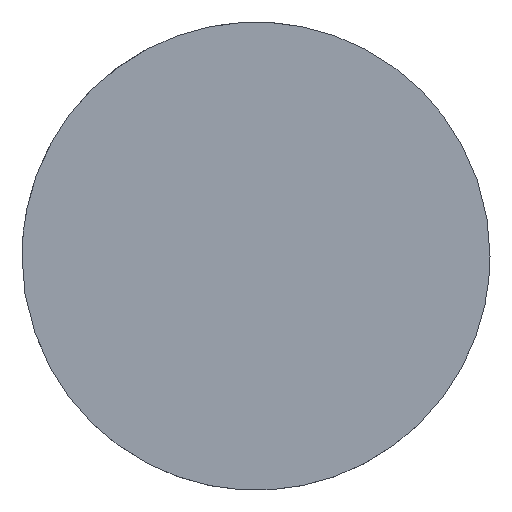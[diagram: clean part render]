
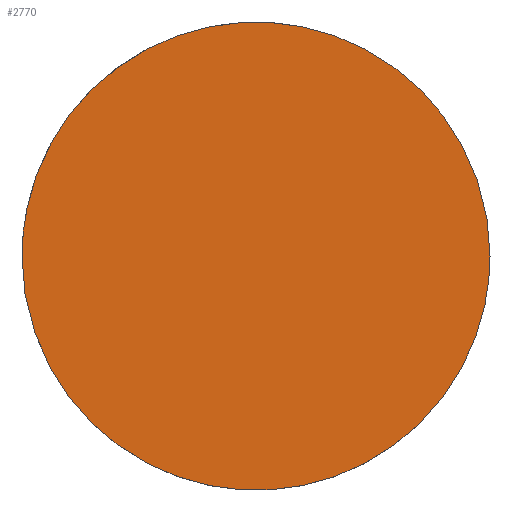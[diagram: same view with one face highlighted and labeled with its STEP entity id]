
A CAD part, top view. The second image highlights one B-rep face of the part: STEP entity #2770.
In plain terms, the highlighted planar face has unit normal (0, 0, 1).
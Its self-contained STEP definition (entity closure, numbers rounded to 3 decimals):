
#190 = CARTESIAN_POINT ('', (-50., 0., -76.181));
#200 = VERTEX_POINT ('', #190);
#260 = CARTESIAN_POINT ('', (50., 0., -76.181));
#270 = VERTEX_POINT ('', #260);
#280 = CARTESIAN_POINT ('', (50., 0., -76.181));
#290 = CARTESIAN_POINT ('', (50., 50., -76.181));
#300 = CARTESIAN_POINT ('', (0., 50., -76.181));
#310 = CARTESIAN_POINT ('', (-50., 50., -76.181));
#320 = CARTESIAN_POINT ('', (-50., 0., -76.181));
#330 = (
   BOUNDED_CURVE ()
   B_SPLINE_CURVE (2, (#280, #290, #300, #310, #320), .UNSPECIFIED., .F., .U.)
   B_SPLINE_CURVE_WITH_KNOTS ((3, 2, 3), (0., 1.571, 3.142), .UNSPECIFIED.)
   CURVE ()
   GEOMETRIC_REPRESENTATION_ITEM ()
   RATIONAL_B_SPLINE_CURVE ((1., 0.707, 1., 0.707, 1.))
   REPRESENTATION_ITEM ('')
);
#340 = EDGE_CURVE ('', #270, #200, #330, .T.);
#580 = CARTESIAN_POINT ('', (-50., 0., -76.181));
#590 = CARTESIAN_POINT ('', (-50., -50., -76.181));
#600 = CARTESIAN_POINT ('', (0., -50., -76.181));
#610 = CARTESIAN_POINT ('', (50., -50., -76.181));
#620 = CARTESIAN_POINT ('', (50., 0., -76.181));
#630 = (
   BOUNDED_CURVE ()
   B_SPLINE_CURVE (2, (#580, #590, #600, #610, #620), .UNSPECIFIED., .F., .U.)
   B_SPLINE_CURVE_WITH_KNOTS ((3, 2, 3), (3.142, 4.712, 6.283), .UNSPECIFIED.)
   CURVE ()
   GEOMETRIC_REPRESENTATION_ITEM ()
   RATIONAL_B_SPLINE_CURVE ((1., 0.707, 1., 0.707, 1.))
   REPRESENTATION_ITEM ('')
);
#640 = EDGE_CURVE ('', #200, #270, #630, .T.);
#2680 = ORIENTED_EDGE ('', *, *, #340, .T.);
#2690 = ORIENTED_EDGE ('', *, *, #640, .T.);
#2700 = EDGE_LOOP ('', (#2680, #2690));
#2710 = FACE_OUTER_BOUND ('', #2700, .T.);
#2720 = CARTESIAN_POINT ('', (0., 102.204, -76.181));
#2730 = DIRECTION ('', (0., 0., 1.));
#2740 = DIRECTION ('', (-0.707, -0.707, 0.));
#2750 = AXIS2_PLACEMENT_3D ('', #2720, #2730, #2740);
#2760 = PLANE ('', #2750);
#2770 = ADVANCED_FACE ('', (#2710), #2760, .T.);
